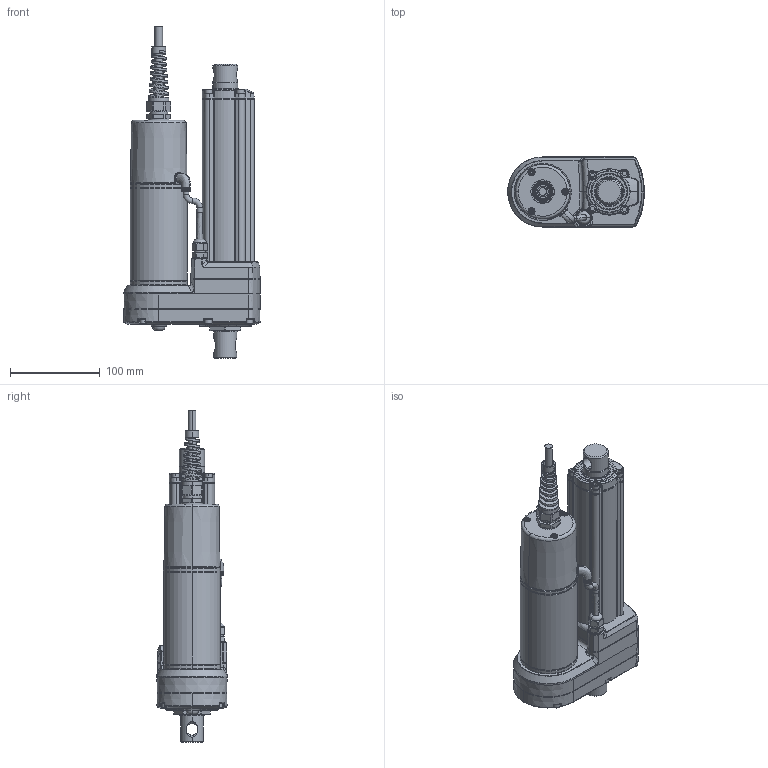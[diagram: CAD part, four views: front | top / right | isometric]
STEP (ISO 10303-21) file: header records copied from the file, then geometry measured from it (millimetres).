
FILE_DESCRIPTION (( 'STEP AP203' ), '1' );
FILE_NAME ('3D_MA1-DC-with-Electromagnetic brake.STEP', '2022-11-08T03:59:07', ( '' ), ( '' ), 'SwSTEP 2.0', 'SolidWorks 2015', '' );
FILE_SCHEMA (( 'CONFIG_CONTROL_DESIGN' ));
Products named in the file (1): 3D_MA1-DC-with-Electromagnetic brake
Bounding box: 152 x 78 x 369.3 mm (x, y, z)
Volume: 1363298.6 mm3; surface area: 236746.2 mm2
Topology: 15 solids, 22 shells, 1818 faces, 4441 edges, 2695 vertices
Faces by surface type: plane 651, cylinder 428, cone 285, torus 225, bspline 213, sphere 16
Entity records: 66416 total; most frequent: CARTESIAN_POINT 25514, ORIENTED_EDGE 8858, DIRECTION 8278, EDGE_CURVE 4429, AXIS2_PLACEMENT_3D 3256, VERTEX_POINT 2695, EDGE_LOOP 1882, ADVANCED_FACE 1818
